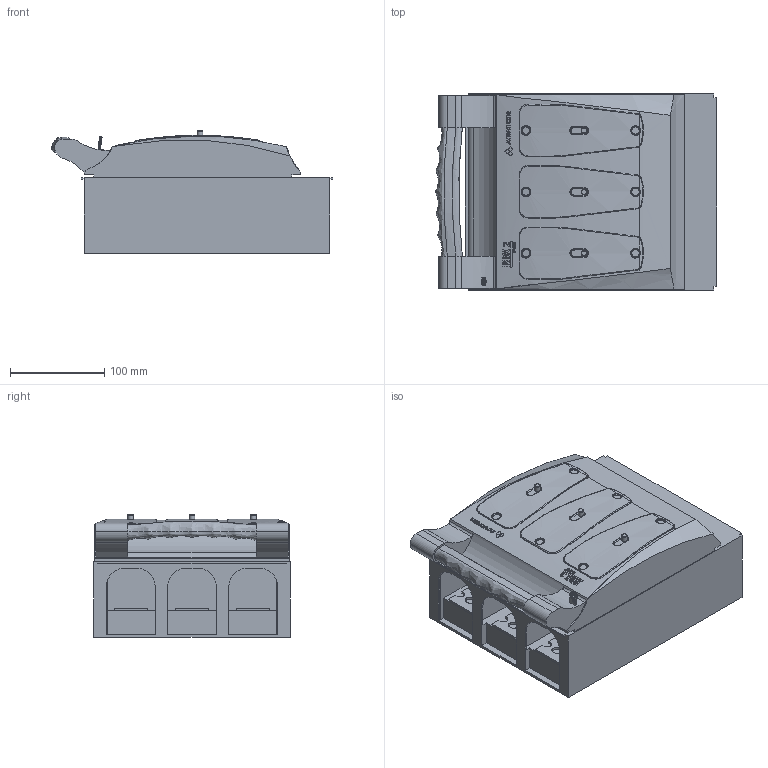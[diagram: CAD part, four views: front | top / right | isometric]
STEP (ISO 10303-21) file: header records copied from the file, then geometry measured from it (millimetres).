
FILE_DESCRIPTION(/* description */ (''),/* implementation_level */ '2;1');
FILE_NAME(/* name */ 'RBK 2 pro - 63-811685-011.stp',/* time_stamp */ '2019-02-26T08:03:04+01:00',/* author */ (''),/* organization */ (''),/* preprocessor_version */ 'ST-DEVELOPER v16',/* originating_system */ 'SIEMENS PLM Software NX 10.0',/* authorisation */ '');
FILE_SCHEMA (('AUTOMOTIVE_DESIGN { 1 0 10303 214 3 1 1 1 }'));
Products named in the file (1): 710_09FCACF7itzm
Bounding box: 297.76 x 208 x 129.8 mm (x, y, z)
Volume: 5223576.3 mm3; surface area: 314118 mm2
Topology: 1 solids, 1 shells, 1304 faces, 3602 edges, 2335 vertices
Faces by surface type: plane 859, bspline 217, cylinder 115, extrusion 95, cone 9, torus 9
Full cylindrical faces by diameter (mm): 6 x3, 11 x6
Entity records: 60627 total; most frequent: CARTESIAN_POINT 19877, ORIENTED_EDGE 7068, DIRECTION 6530, EDGE_CURVE 3534, AXIS2_PLACEMENT_3D 2507, VERTEX_POINT 2315, VECTOR 1516, LINE 1421
